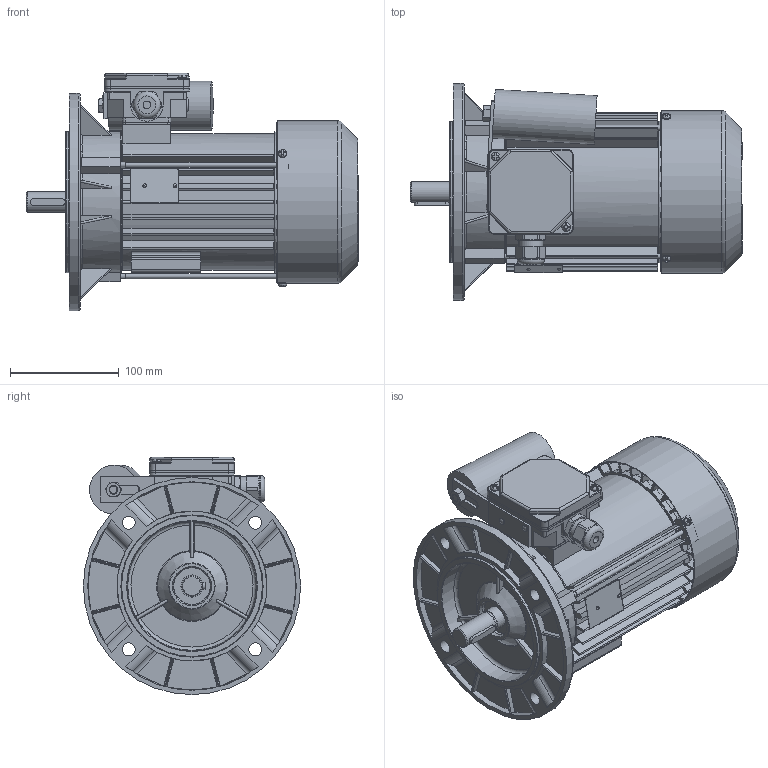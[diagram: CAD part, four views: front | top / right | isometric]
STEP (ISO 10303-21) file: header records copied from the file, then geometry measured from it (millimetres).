
FILE_DESCRIPTION( ( 'Unknown' ), '1' );
FILE_NAME( 'G:/Poczta Tk-1/STP/w.m.80/SEh80/SEKh80-.C.stp', 'Unknown', ( 'K. Szlosek' ), ( 'BESEL S.A.' ), 'PSStep 17.0.49', 'Unknown', ' ' );
FILE_SCHEMA( ( 'AUTOMOTIVE_DESIGN { 1 0 10303 214 1 1 1 1 }' ) );
Length unit declared in the file: millimetre
Products named in the file (33): Assem1; K1-1257 Kadłub S(E,M)h80-C i D; K2-2027 Tarcza łożyskowa P S(E,M)h80-.A,C; K1-1258  zmiana Tarcza kołnierzowa B5 SKh80-..; Wkręt samogwintujący M4x16; Wkręt samogwintujący M4x10; K4-2999 Uchwyt kondensatora; K3-7039 wał standard Sh80-C; K4-4489 Osłona przewietrznika Sh80,90-A,C; K4-2320 Uszczelka nr 1 Sh71,80; K4-2820 Uszczelka nr 2 Sh71,80; K2-0860 Pokrywka skrzynki zaciskowej; K2-1131 Podstawa skrzynki zaciskowej jednofazowa; Wpust A6x6x32; K2-1715 Przewietrznik; K4-0898 Tulejka uszczelniająca; Kondensator zb 25-31,5uF Comar; nakrętka M8; Nit 4x12 po skróceniu; Nitokołek A 2x6; Łożysko 6204; Śruba ściągająca E_M5x168; Tabliczka znamionowa 32x44; Dławnica M20x1,5
Assembly tree (49 placements, depth 2):
  Assem1
    K1-1257 Kadłub S(E,M)h80-C i D
    K2-2027 Tarcza łożyskowa P S(E,M)h80-.A,C
    K1-1258  zmiana Tarcza kołnierzowa B5 SKh80-..
    Wkręt samogwintujący M4x16  x2
    Wkręt samogwintujący M4x10  x3
    K4-2999 Uchwyt kondensatora
    K3-7039 wał standard Sh80-C
    K4-4489 Osłona przewietrznika Sh80,90-A,C
    K4-2320 Uszczelka nr 1 Sh71,80
    K4-2820 Uszczelka nr 2 Sh71,80
    K2-0860 Pokrywka skrzynki zaciskowej
    K2-1131 Podstawa skrzynki zaciskowej jednofazowa
    Wpust A6x6x32
    K2-1715 Przewietrznik
    K4-0898 Tulejka uszczelniająca
    Kondensator zb 25-31,5uF Comar
    nakrętka M8
    Nit 4x12 po skróceniu  x2
    Nitokołek A 2x6  x2
    Łożysko 6204  x2
    Łożysko 6204  x2
    Łożysko 6204  x2
    Łożysko 6204  x2
    Łożysko 6204  x2
    Łożysko 6204  x2
    Łożysko 6204  x2
    Łożysko 6204  x2
    Łożysko 6204  x2
    Łożysko 6204  x2
    Śruba ściągająca E_M5x168  x3
    Tabliczka znamionowa 32x44
    Dławnica M20x1,5
Bounding box: 305.8 x 200 x 218.5 mm (x, y, z)
Volume: 1167751.4 mm3; surface area: 633463.6 mm2
Topology: 49 solids, 65 shells, 2433 faces, 6662 edges, 4307 vertices
Faces by surface type: plane 1212, cylinder 817, bspline 137, cone 125, torus 106, sphere 36
Full cylindrical faces by diameter (mm): 2 x2, 2.4 x2, 3 x2, 3.7 x11, 4 x7, 4.134 x3, 4.3 x2, 4.5 x3, 4.6 x3, 4.8 x4, 5 x7, 5.5 x3, 6 x2, 6.5 x1, 6.647 x1, 7 x1, 8 x10, 10 x2, 12 x4, 18.376 x1, 18.38 x1, 18.6 x1, 19 x1, 19.3 x1, 19.5 x2, 19.9 x1, 20 x5, 20.3 x2, 20.4 x4, 22.3 x1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
Entity records: 112105 total; most frequent: CARTESIAN_POINT 38836, ORIENTED_EDGE 11724, DIRECTION 11433, EDGE_CURVE 5862, AXIS2_PLACEMENT_3D 4187, VERTEX_POINT 3966, LINE 3059, VECTOR 3059
